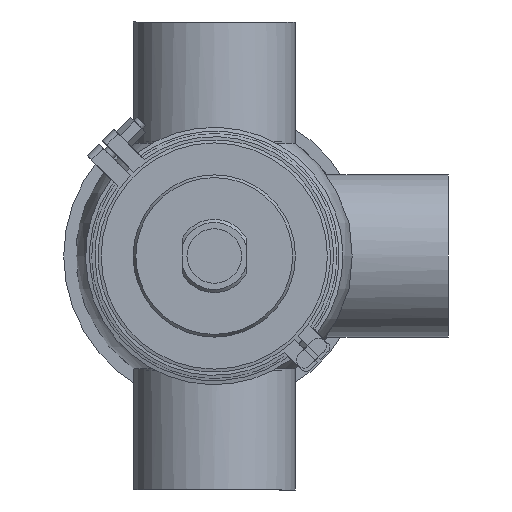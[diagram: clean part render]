
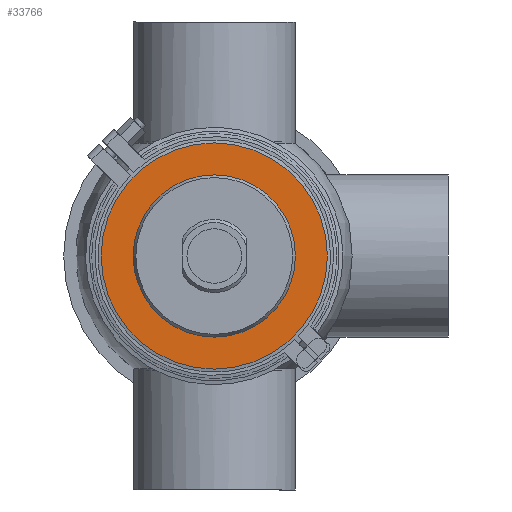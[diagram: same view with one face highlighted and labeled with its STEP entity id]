
A CAD part, front view. The second image highlights one B-rep face of the part: STEP entity #33766.
In plain terms, the highlighted planar face has unit normal (0, -1, 0).
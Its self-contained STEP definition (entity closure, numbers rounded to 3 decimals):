
#4173 = DIRECTION ( 'NONE',  ( 0., -1., 0. ) ) ;
#4407 = ORIENTED_EDGE ( 'NONE', *, *, #27099, .T. ) ;
#5133 = FACE_BOUND ( 'NONE', #47783, .T. ) ;
#6152 = CARTESIAN_POINT ( 'NONE',  ( 0., -13., 52. ) ) ;
#14421 = CIRCLE ( 'NONE', #50413, 52. ) ;
#17135 = VERTEX_POINT ( 'NONE', #51925 ) ;
#17933 = EDGE_CURVE ( 'NONE', #17135, #17135, #39773, .T. ) ;
#19546 = DIRECTION ( 'NONE',  ( 0., 0., 1. ) ) ;
#24768 = FACE_OUTER_BOUND ( 'NONE', #51179, .T. ) ;
#25118 = CARTESIAN_POINT ( 'NONE',  ( 0., -13., 0. ) ) ;
#27099 = EDGE_CURVE ( 'NONE', #50244, #50244, #14421, .T. ) ;
#33766 = ADVANCED_FACE ( 'NONE', ( #5133, #24768 ), #54052, .T. ) ;
#34729 = DIRECTION ( 'NONE',  ( 0., 1., 0. ) ) ;
#38156 = ORIENTED_EDGE ( 'NONE', *, *, #17933, .F. ) ;
#39472 = CARTESIAN_POINT ( 'NONE',  ( -72.5, -13., 0. ) ) ;
#39773 = CIRCLE ( 'NONE', #52241, 72.5 ) ;
#43972 = DIRECTION ( 'NONE',  ( 0., 1., 0. ) ) ;
#47783 = EDGE_LOOP ( 'NONE', ( #4407 ) ) ;
#49592 = DIRECTION ( 'NONE',  ( 0., 0., 1. ) ) ;
#50244 = VERTEX_POINT ( 'NONE', #6152 ) ;
#50413 = AXIS2_PLACEMENT_3D ( 'NONE', #58153, #43972, #19546 ) ;
#51179 = EDGE_LOOP ( 'NONE', ( #38156 ) ) ;
#51925 = CARTESIAN_POINT ( 'NONE',  ( 0., -13., 72.5 ) ) ;
#52241 = AXIS2_PLACEMENT_3D ( 'NONE', #25118, #34729, #49592 ) ;
#54052 = PLANE ( 'NONE',  #58432 ) ;
#58153 = CARTESIAN_POINT ( 'NONE',  ( 0., -13., 0. ) ) ;
#58432 = AXIS2_PLACEMENT_3D ( 'NONE', #39472, #4173, #62713 ) ;
#62713 = DIRECTION ( 'NONE',  ( 0., 0., -1. ) ) ;
